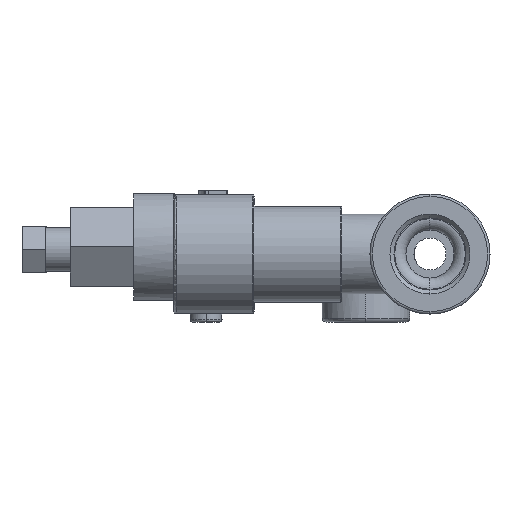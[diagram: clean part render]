
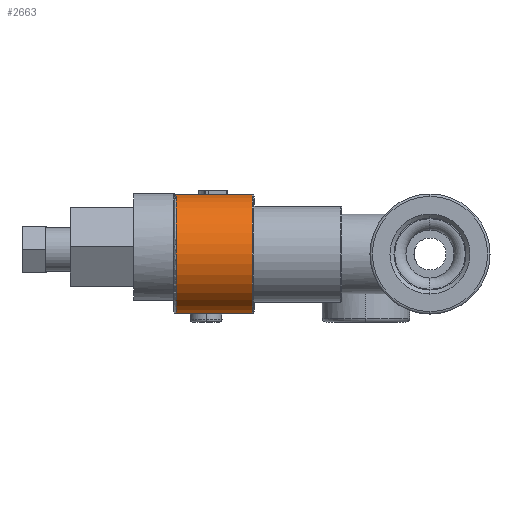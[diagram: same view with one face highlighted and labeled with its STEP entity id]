
A CAD part, left-side view. The second image highlights one B-rep face of the part: STEP entity #2663.
In plain terms, the highlighted cylindrical face has radius 7.5 mm (diameter 15 mm), a partial arc.
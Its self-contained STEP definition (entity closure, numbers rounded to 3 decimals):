
#1071 = CARTESIAN_POINT ( 'NONE',  ( -76.5, 0.001, 0. ) ) ;
#1511 = ORIENTED_EDGE ( 'NONE', *, *, #18693, .T. ) ;
#1660 = CIRCLE ( 'NONE', #8923, 7.5 ) ;
#2663 = ADVANCED_FACE ( 'NONE', ( #12546 ), #13872, .T. ) ;
#4838 = CARTESIAN_POINT ( 'NONE',  ( -76.5, 31.7, 7.5 ) ) ;
#5170 = CARTESIAN_POINT ( 'NONE',  ( -76.5, 31.7, -7.5 ) ) ;
#5831 = AXIS2_PLACEMENT_3D ( 'NONE', #1071, #22916, #14560 ) ;
#6132 = EDGE_LOOP ( 'NONE', ( #32959, #27398, #1511, #32048 ) ) ;
#7543 = DIRECTION ( 'NONE',  ( 0., 0., 1. ) ) ;
#7786 = DIRECTION ( 'NONE',  ( 0., -1., 0. ) ) ;
#7801 = CARTESIAN_POINT ( 'NONE',  ( -76.5, 0.001, 7.5 ) ) ;
#8104 = DIRECTION ( 'NONE',  ( 0., -1., 0. ) ) ;
#8923 = AXIS2_PLACEMENT_3D ( 'NONE', #16013, #7786, #7543 ) ;
#11110 = DIRECTION ( 'NONE',  ( 0., 0., -1. ) ) ;
#12546 = FACE_OUTER_BOUND ( 'NONE', #6132, .T. ) ;
#13188 = VECTOR ( 'NONE', #8104, 1000. ) ;
#13219 = DIRECTION ( 'NONE',  ( 0., -1., 0. ) ) ;
#13587 = EDGE_CURVE ( 'NONE', #14002, #29664, #36477, .T. ) ;
#13872 = CYLINDRICAL_SURFACE ( 'NONE', #5831, 7.5 ) ;
#14002 = VERTEX_POINT ( 'NONE', #4838 ) ;
#14560 = DIRECTION ( 'NONE',  ( 0., 0., -1. ) ) ;
#15192 = EDGE_CURVE ( 'NONE', #35630, #29664, #32867, .T. ) ;
#16013 = CARTESIAN_POINT ( 'NONE',  ( -76.5, 31.7, 0. ) ) ;
#16206 = EDGE_CURVE ( 'NONE', #14002, #19972, #1660, .T. ) ;
#18693 = EDGE_CURVE ( 'NONE', #19972, #35630, #20199, .T. ) ;
#19972 = VERTEX_POINT ( 'NONE', #5170 ) ;
#20199 = LINE ( 'NONE', #21951, #13188 ) ;
#20376 = CARTESIAN_POINT ( 'NONE',  ( -76.5, 22.2, 7.5 ) ) ;
#21232 = CARTESIAN_POINT ( 'NONE',  ( -76.5, 22.2, -7.5 ) ) ;
#21951 = CARTESIAN_POINT ( 'NONE',  ( -76.5, 0.001, -7.5 ) ) ;
#22916 = DIRECTION ( 'NONE',  ( 0., -1., 0. ) ) ;
#27398 = ORIENTED_EDGE ( 'NONE', *, *, #16206, .T. ) ;
#28119 = VECTOR ( 'NONE', #13219, 1000. ) ;
#28387 = CARTESIAN_POINT ( 'NONE',  ( -76.5, 22.2, 0. ) ) ;
#29350 = AXIS2_PLACEMENT_3D ( 'NONE', #28387, #30961, #11110 ) ;
#29664 = VERTEX_POINT ( 'NONE', #20376 ) ;
#30961 = DIRECTION ( 'NONE',  ( 0., 1., 0. ) ) ;
#32048 = ORIENTED_EDGE ( 'NONE', *, *, #15192, .T. ) ;
#32867 = CIRCLE ( 'NONE', #29350, 7.5 ) ;
#32959 = ORIENTED_EDGE ( 'NONE', *, *, #13587, .F. ) ;
#35630 = VERTEX_POINT ( 'NONE', #21232 ) ;
#36477 = LINE ( 'NONE', #7801, #28119 ) ;
